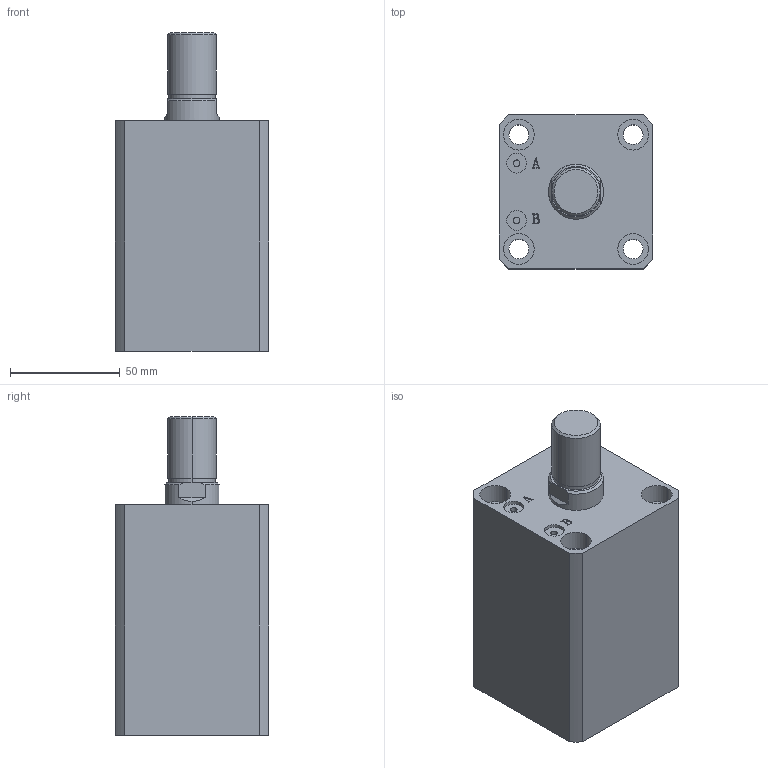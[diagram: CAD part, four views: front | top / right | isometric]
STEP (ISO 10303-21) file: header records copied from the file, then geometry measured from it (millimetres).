
FILE_DESCRIPTION (( 'STEP AP203' ), '1' );
FILE_NAME ('HTB-SDMA40-50W.STEP', '2019-10-07T11:54:04', ( '微软用户' ), ( '微软中国' ), 'SwSTEP 2.0', 'SolidWorks 2012', '' );
FILE_SCHEMA (( 'CONFIG_CONTROL_DESIGN' ));
Length unit declared in the file: millimetre
Products named in the file (3): HTB-SDMA40-50W; HTB-SDMA40-50W活塞杆; HTB-SDMA40-50掛极
Assembly tree (2 placements, depth 2):
  HTB-SDMA40-50W
    HTB-SDMA40-50掛极
    HTB-SDMA40-50W活塞杆
Bounding box: 70 x 70 x 145 mm (x, y, z)
Volume: 454662.7 mm3; surface area: 76782.6 mm2
Topology: 2 solids, 2 shells, 141 faces, 337 edges, 222 vertices
Faces by surface type: plane 67, cylinder 48, bspline 16, torus 6, cone 4
Entity records: 5180 total; most frequent: CARTESIAN_POINT 1597, ORIENTED_EDGE 674, DIRECTION 669, EDGE_CURVE 337, AXIS2_PLACEMENT_3D 242, VERTEX_POINT 222, LINE 185, VECTOR 185
